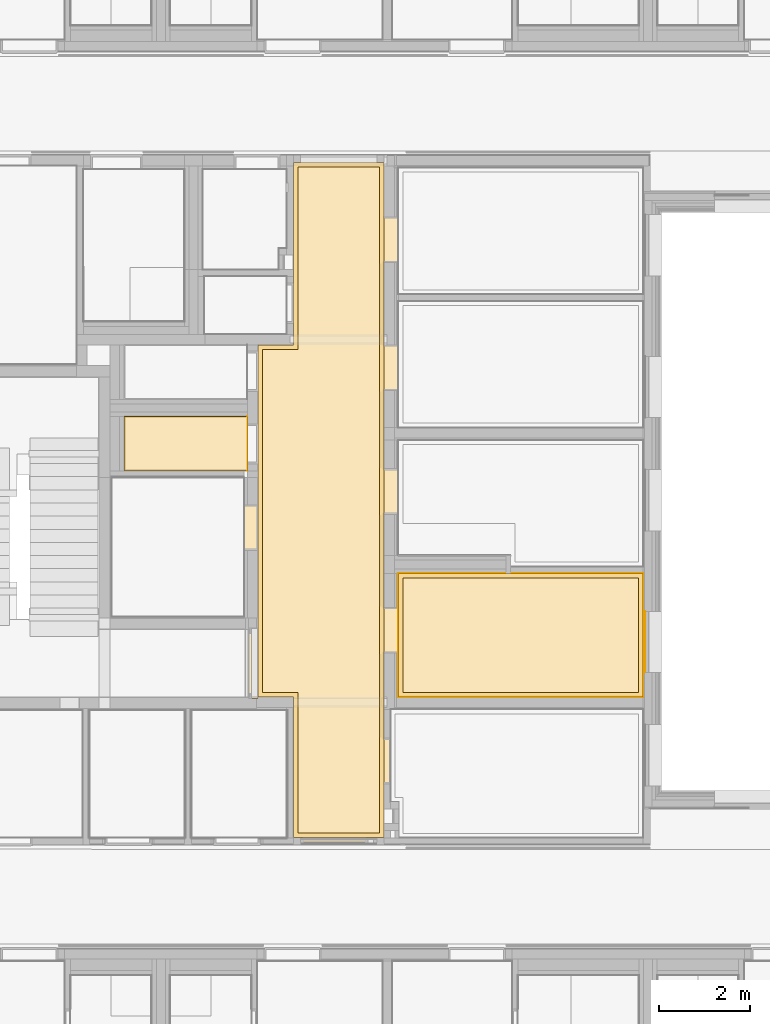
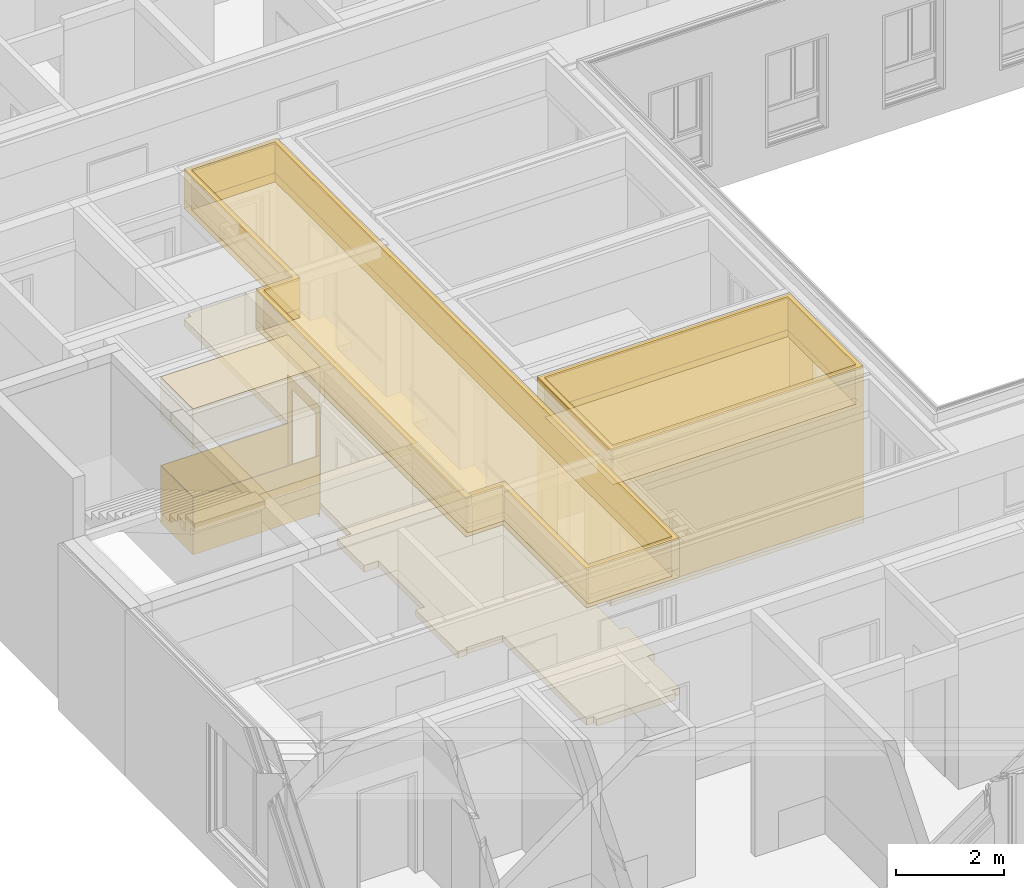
# One storey, part 159 of 222: 24 coverings.
"""IFC4 building model written with IfcOpenShell, lengths in metres."""

from ifc_helpers import new_model, entity, si_unit, converted_unit, derived_unit, frame, frame_2d, origin, origin_with_axes, place, context, subcontext, project, spatial, polyline, rectangle, outline, extrude, material, layer, layer_set, layer_usage, element, save


model = new_model("IFC4")

# Units and contexts
model_context = context("Model", 3, precision=1e-05, world=origin())
body_context = subcontext(model_context, "Body", "Model", "MODEL_VIEW")
ifc_project = project(units=[si_unit("LENGTHUNIT", "METRE"), si_unit("AREAUNIT", "SQUARE_METRE"), si_unit("VOLUMEUNIT", "CUBIC_METRE"), si_unit("MASSUNIT", "GRAM", prefix="KILO"), converted_unit("PLANEANGLEUNIT", "DEGREE", entity("IfcPlaneAngleMeasure", 0.0174532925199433), si_unit("PLANEANGLEUNIT", "RADIAN"), dimensions=[0, 0, 0, 0, 0, 0, 0]), derived_unit("THERMALTRANSMITTANCEUNIT", [(si_unit("POWERUNIT", "WATT"), 1), (si_unit("THERMODYNAMICTEMPERATUREUNIT", "KELVIN"), -1), (si_unit("LENGTHUNIT", "METRE"), -2)]), derived_unit("VOLUMETRICFLOWRATEUNIT", [(si_unit("LENGTHUNIT", "METRE"), 3), (converted_unit("TIMEUNIT", "hour", entity("IfcTimeMeasure", 3600.0), si_unit("TIMEUNIT", "SECOND"), dimensions=[0, 0, 1, 0, 0, 0, 0]), -1), (si_unit("LENGTHUNIT", "METRE"), -1)])], contexts=[model_context])

# Site, building, storey, space
site_placement = place(None, origin())
site = spatial("IfcSite", under=ifc_project, at=site_placement, Name="Psychiatrie Neubau Wunstorf", CompositionType="ELEMENT")
building_placement = place(site_placement, origin())
building = spatial("IfcBuilding", under=site, at=building_placement, Name="Neubau H2 Stationsgebäude", CompositionType="ELEMENT")
storey_placement = place(building_placement, frame((0.0, 0.0, 3.6)))
storey = spatial("IfcBuildingStorey", under=building, at=storey_placement, Name="H2 Ebene +1", CompositionType="ELEMENT", Elevation=3.6)
space_1_placement = place(storey_placement, frame((7.1409987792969, 6.7749998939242, 0.0)))
space_1 = spatial("IfcSpace", under=storey, at=space_1_placement, Name="WUN-H2-E01-073", CompositionType="ELEMENT")

# Coverings
ifc_material_1 = material()
ifc_layer_1 = layer(ifc_material_1, 0.036)
ifc_layer_set_1 = layer_set([ifc_layer_1])
ifc_layer_usage_1 = layer_usage(ifc_layer_set_1, "AXIS3", "POSITIVE", 0.0)
covering_1_placement = place(space_1_placement, frame((0.0999999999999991, 0.104999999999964, 3.55)))
element("IfcCovering", 1, at=covering_1_placement, inside=space_1, material=ifc_layer_usage_1, Name="Gipsfaserplatten 2-lagig (BSK)", PredefinedType="CEILING", context=body_context, shape_type="SweptSolid", body=[
    extrude(outline(polyline([(0.0, 4.02698678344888), (0.783993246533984, 4.02698678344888), (0.784001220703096, 0.0), (2.57650124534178, 0.0), (2.57650124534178, 14.7010001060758), (0.784001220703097, 14.7010001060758), (0.783990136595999, 11.5989969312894), (0.0, 11.5989969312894), (0.0, 4.02698678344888)])), frame((0.0, 14.7010001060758, 0.0), z_axis=(0.0, 0.0, -1.0), x_axis=(1.0, 0.0, 0.0)), (0.0, 0.0, 1.0), 0.036),
])
ifc_material_2 = material(Name="Installationshöhe")
ifc_layer_2 = layer(ifc_material_2, 0.664)
ifc_layer_set_2 = layer_set([ifc_layer_2])
ifc_layer_usage_2 = layer_usage(ifc_layer_set_2, "AXIS3", "POSITIVE", 0.0)
covering_2_placement = place(space_1_placement, frame((0.0999999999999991, 0.104999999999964, 3.514)))
element("IfcCovering", 2, at=covering_2_placement, inside=space_1, material=ifc_layer_usage_2, Name="Gipsfaserplatten 2-lagig (BSK)", PredefinedType="CEILING", context=body_context, shape_type="SweptSolid", body=[
    extrude(outline(polyline([(0.0, 4.02698678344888), (0.783993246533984, 4.02698678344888), (0.784001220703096, 0.0), (2.57650124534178, 0.0), (2.57650124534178, 14.7010001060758), (0.784001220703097, 14.7010001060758), (0.783990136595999, 11.5989969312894), (0.0, 11.5989969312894), (0.0, 4.02698678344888)])), frame((0.0, 14.7010001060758, 0.0), z_axis=(0.0, 0.0, -1.0), x_axis=(1.0, 0.0, 0.0)), (0.0, 0.0, 1.0), 0.664),
])
ifc_material_3 = material(Name="Aa")
ifc_layer_3 = layer(ifc_material_3, 0.2)
ifc_layer_set_3 = layer_set([ifc_layer_3])
ifc_layer_usage_3 = layer_usage(ifc_layer_set_3, "AXIS3", "POSITIVE", 0.0)
covering_3_placement = place(space_1_placement, frame((0.0999999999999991, 0.104999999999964, 2.85)))
element("IfcCovering", 3, at=covering_3_placement, inside=space_1, material=ifc_layer_usage_3, Name="Gipsfaserplatten 2-lagig (BSK)", PredefinedType="CEILING", context=body_context, shape_type="SweptSolid", body=[
    extrude(outline(polyline([(0.0, 4.02698678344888), (0.783993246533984, 4.02698678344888), (0.784001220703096, 0.0), (2.57650124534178, 0.0), (2.57650124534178, 14.7010001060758), (0.784001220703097, 14.7010001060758), (0.783990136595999, 11.5989969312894), (0.0, 11.5989969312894), (0.0, 4.02698678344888)])), frame((0.0, 14.7010001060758, 0.0), z_axis=(0.0, 0.0, -1.0), x_axis=(1.0, 0.0, 0.0)), (0.0, 0.0, 1.0), 0.2),
])
ifc_material_4 = material(Name="D1")
ifc_layer_4 = layer(ifc_material_4, 0.001)
ifc_layer_set_4 = layer_set([ifc_layer_4])
ifc_layer_usage_4 = layer_usage(ifc_layer_set_4, "AXIS3", "POSITIVE", 0.0)
covering_4_placement = place(space_1_placement, frame((0.0999999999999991, 0.104999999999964, 2.65)))
element("IfcCovering", 4, at=covering_4_placement, inside=space_1, material=ifc_layer_usage_4, Name="Gipsfaserplatten 2-lagig (BSK)", PredefinedType="CEILING", context=body_context, shape_type="SweptSolid", body=[
    extrude(outline(polyline([(0.0, 4.02698678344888), (0.783993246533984, 4.02698678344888), (0.784001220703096, 0.0), (2.57650124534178, 0.0), (2.57650124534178, 14.7010001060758), (0.784001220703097, 14.7010001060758), (0.783990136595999, 11.5989969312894), (0.0, 11.5989969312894), (0.0, 4.02698678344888)])), frame((0.0, 14.7010001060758, 0.0), z_axis=(0.0, 0.0, -1.0), x_axis=(1.0, 0.0, 0.0)), (0.0, 0.0, 1.0), 0.001),
])
ifc_material_5 = material(Name="Ku1")
ifc_layer_5 = layer(ifc_material_5, 0.15)
ifc_layer_set_5 = layer_set([ifc_layer_5])
ifc_layer_usage_5 = layer_usage(ifc_layer_set_5, "AXIS3", "POSITIVE", 0.0)
covering_5_placement = place(space_1_placement, frame((-0.307, -0.110000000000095, 0.0)))
element("IfcCovering", 5, at=covering_5_placement, inside=space_1, material=ifc_layer_usage_5, Name="PVC Bahnenware Holzoptik", PredefinedType="FLOORING", context=body_context, shape_type="SweptSolid", body=[
    extrude(rectangle(XDim=0.194999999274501, YDim=1.56, at=frame_2d((0.0974999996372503, 0.78), x_axis=(1.0, 0.0))), frame((0.112000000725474, 3.18000000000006, 0.0), z_axis=(0.0, 0.0, 1.0), x_axis=(1.0, 0.0, 0.0)), (0.0, 0.0, 1.0), 0.15),
    extrude(rectangle(XDim=1.01, YDim=0.3215, at=frame_2d((0.16075, -0.505), x_axis=(0.0, -1.0))), frame((3.08350124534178, 10.989013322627, 0.0), z_axis=(0.0, 0.0, 1.0), x_axis=(1.0, 0.0, 0.0)), (0.0, 0.0, 1.0), 0.15),
    extrude(rectangle(XDim=1.01, YDim=0.3215, at=frame_2d((0.16075, -0.505), x_axis=(0.0, -1.0))), frame((3.08350124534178, 13.8130001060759, 0.0), z_axis=(0.0, 0.0, 1.0), x_axis=(1.0, 0.0, 0.0)), (0.0, 0.0, 1.0), 0.15),
    extrude(rectangle(XDim=1.01, YDim=0.3215, at=frame_2d((0.16075, -0.505), x_axis=(0.0, -1.0))), frame((3.08350124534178, 8.26000000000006, 0.0), z_axis=(0.0, 0.0, 1.0), x_axis=(1.0, 0.0, 0.0)), (0.0, 0.0, 1.0), 0.15),
    extrude(rectangle(XDim=0.115000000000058, YDim=1.6825, at=frame_2d((-0.84125, 0.0575000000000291), x_axis=(0.0, 1.0))), frame((2.92850123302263, 0.0, 0.0), z_axis=(1.35140371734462e-16, -1.97716239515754e-15, 1.0), x_axis=(1.0, 0.0, 0.0)), (0.0, 1.97716239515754e-15, 1.0), 0.15),
    extrude(rectangle(XDim=0.115000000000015, YDim=1.6825, at=frame_2d((0.84125, -0.0575000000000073), x_axis=(0.0, -1.0))), frame((1.2460012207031, 15.1310001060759, 0.0), z_axis=(1.35140371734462e-16, -1.97716239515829e-15, 1.0), x_axis=(1.0, 0.0, 0.0)), (0.0, 1.97716239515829e-15, 1.0), 0.15),
    extrude(rectangle(XDim=0.15, YDim=1.01, at=frame_2d((-0.075, -0.505), x_axis=(-1.0, 0.0))), frame((3.23350124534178, 2.31000000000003, 0.0), z_axis=(0.0, 0.0, 1.0), x_axis=(1.0, 0.0, 0.0)), (0.0, 0.0, 1.0), 0.15),
    extrude(rectangle(XDim=1.01, YDim=0.3215, at=frame_2d((0.16075, -0.505), x_axis=(0.0, -1.0))), frame((3.08350124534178, 5.19600010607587, 0.0), z_axis=(0.0, 0.0, 1.0), x_axis=(1.0, 0.0, 0.0)), (0.0, 0.0, 1.0), 0.15),
    extrude(rectangle(XDim=0.307, YDim=1.01, at=frame_2d((0.1535, 0.505), x_axis=(1.0, 0.0))), frame((0.0, 6.45000000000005, 0.0), z_axis=(0.0, 0.0, 1.0), x_axis=(1.0, 0.0, 0.0)), (0.0, 0.0, 1.0), 0.15),
    extrude(outline(polyline([(0.783993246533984, 10.8740133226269), (0.0, 10.8740133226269), (0.0, 3.10200317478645), (0.784001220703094, 3.10200317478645), (0.784001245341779, 0.0), (2.77650124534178, 0.0), (2.77650124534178, 14.9010001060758), (0.784001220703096, 14.9010001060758), (0.783993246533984, 10.8740133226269)])), frame((0.307, 0.115000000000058, 0.0), z_axis=(0.0, 0.0, 1.0), x_axis=(1.0, 0.0, 0.0)), (0.0, 0.0, 1.0), 0.15),
])
ifc_material_6 = material()
ifc_layer_6 = layer(ifc_material_6, 0.036)
ifc_layer_set_6 = layer_set([ifc_layer_6])
ifc_layer_usage_6 = layer_usage(ifc_layer_set_6, "AXIS3", "POSITIVE", 0.0)
covering_6_placement = place(space_1_placement, frame((0.0, 0.00499999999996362, 3.55)))
element("IfcCovering", 6, at=covering_6_placement, inside=space_1, material=ifc_layer_usage_6, Name="Gipsfaserplatten 2-lagig (BSK)", PredefinedType="CEILING", context=body_context, shape_type="SweptSolid", body=[
    extrude(outline(polyline([(0.0, 4.02698678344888), (0.783993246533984, 4.02698678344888), (0.784001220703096, 0.0), (2.77650124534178, 0.0), (2.77650124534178, 14.9010001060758), (0.784001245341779, 14.9010001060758), (0.784001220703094, 11.7989969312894), (0.0, 11.7989969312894), (0.0, 4.02698678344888)]), holes=[polyline([(0.883993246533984, 4.12698678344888), (0.100000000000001, 4.12698678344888), (0.1, 11.6989969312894), (0.883990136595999, 11.6989969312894), (0.884001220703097, 14.8010001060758), (2.67650124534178, 14.8010001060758), (2.67650124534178, 0.1), (0.884001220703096, 0.1), (0.883993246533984, 4.12698678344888)])]), frame((0.0, 14.9010001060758, 0.0), z_axis=(0.0, 0.0, -1.0), x_axis=(1.0, 0.0, 0.0)), (0.0, 0.0, 1.0), 0.036),
])
ifc_material_7 = material(Name="Installationshöhe")
ifc_layer_7 = layer(ifc_material_7, 0.664)
ifc_layer_set_7 = layer_set([ifc_layer_7])
ifc_layer_usage_7 = layer_usage(ifc_layer_set_7, "AXIS3", "POSITIVE", 0.0)
covering_7_placement = place(space_1_placement, frame((0.0, 0.00499999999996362, 3.514)))
element("IfcCovering", 7, at=covering_7_placement, inside=space_1, material=ifc_layer_usage_7, Name="Gipsfaserplatten 2-lagig (BSK)", PredefinedType="CEILING", context=body_context, shape_type="SweptSolid", body=[
    extrude(outline(polyline([(0.0, 4.02698678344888), (0.783993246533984, 4.02698678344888), (0.784001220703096, 0.0), (2.77650124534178, 0.0), (2.77650124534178, 14.9010001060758), (0.784001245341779, 14.9010001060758), (0.784001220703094, 11.7989969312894), (0.0, 11.7989969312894), (0.0, 4.02698678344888)]), holes=[polyline([(0.883993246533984, 4.12698678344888), (0.100000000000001, 4.12698678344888), (0.1, 11.6989969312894), (0.883990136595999, 11.6989969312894), (0.884001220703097, 14.8010001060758), (2.67650124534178, 14.8010001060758), (2.67650124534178, 0.1), (0.884001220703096, 0.1), (0.883993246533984, 4.12698678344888)])]), frame((0.0, 14.9010001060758, 0.0), z_axis=(0.0, 0.0, -1.0), x_axis=(1.0, 0.0, 0.0)), (0.0, 0.0, 1.0), 0.664),
])
ifc_material_8 = material(Name="A1")
ifc_layer_8 = layer(ifc_material_8, 0.2)
ifc_layer_set_8 = layer_set([ifc_layer_8])
ifc_layer_usage_8 = layer_usage(ifc_layer_set_8, "AXIS3", "POSITIVE", 0.0)
covering_8_placement = place(space_1_placement, frame((0.0, 0.00499999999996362, 2.85)))
element("IfcCovering", 8, at=covering_8_placement, inside=space_1, material=ifc_layer_usage_8, Name="Gipsfaserplatten 2-lagig (BSK)", PredefinedType="CEILING", context=body_context, shape_type="SweptSolid", body=[
    extrude(outline(polyline([(0.0, 4.02698678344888), (0.783993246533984, 4.02698678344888), (0.784001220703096, 0.0), (2.77650124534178, 0.0), (2.77650124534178, 14.9010001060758), (0.784001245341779, 14.9010001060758), (0.784001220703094, 11.7989969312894), (0.0, 11.7989969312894), (0.0, 4.02698678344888)]), holes=[polyline([(0.883993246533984, 4.12698678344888), (0.100000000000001, 4.12698678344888), (0.1, 11.6989969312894), (0.883990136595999, 11.6989969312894), (0.884001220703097, 14.8010001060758), (2.67650124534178, 14.8010001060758), (2.67650124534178, 0.1), (0.884001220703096, 0.1), (0.883993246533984, 4.12698678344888)])]), frame((0.0, 14.9010001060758, 0.0), z_axis=(0.0, 0.0, -1.0), x_axis=(1.0, 0.0, 0.0)), (0.0, 0.0, 1.0), 0.2),
])
ifc_material_9 = material(Name="D1")
ifc_layer_9 = layer(ifc_material_9, 0.001)
ifc_layer_set_9 = layer_set([ifc_layer_9])
ifc_layer_usage_9 = layer_usage(ifc_layer_set_9, "AXIS3", "POSITIVE", 0.0)
covering_9_placement = place(space_1_placement, frame((0.0, 0.00499999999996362, 2.65)))
element("IfcCovering", 9, at=covering_9_placement, inside=space_1, material=ifc_layer_usage_9, Name="Gipsfaserplatten 2-lagig (BSK)", PredefinedType="CEILING", context=body_context, shape_type="SweptSolid", body=[
    extrude(outline(polyline([(0.0, 4.02698678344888), (0.783993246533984, 4.02698678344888), (0.784001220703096, 0.0), (2.77650124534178, 0.0), (2.77650124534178, 14.9010001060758), (0.784001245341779, 14.9010001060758), (0.784001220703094, 11.7989969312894), (0.0, 11.7989969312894), (0.0, 4.02698678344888)]), holes=[polyline([(0.883993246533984, 4.12698678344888), (0.100000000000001, 4.12698678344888), (0.1, 11.6989969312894), (0.883990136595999, 11.6989969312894), (0.884001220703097, 14.8010001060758), (2.67650124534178, 14.8010001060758), (2.67650124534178, 0.1), (0.884001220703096, 0.1), (0.883993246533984, 4.12698678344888)])]), frame((0.0, 14.9010001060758, 0.0), z_axis=(0.0, 0.0, -1.0), x_axis=(1.0, 0.0, 0.0)), (0.0, 0.0, 1.0), 0.001),
])

# Space
space_2_placement = place(storey_placement, frame((10.2390000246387, 9.88249989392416, 0.0)))
space_2 = spatial("IfcSpace", under=storey, at=space_2_placement, Name="WUN-H2-E01-036", CompositionType="ELEMENT")

# Coverings
ifc_material_10 = material()
ifc_layer_10 = layer(ifc_material_10, 0.036)
ifc_layer_set_10 = layer_set([ifc_layer_10])
ifc_layer_usage_10 = layer_usage(ifc_layer_set_10, "AXIS3", "POSITIVE", 0.0)
covering_10_placement = place(space_2_placement, frame((0.0, 0.0, 3.55)))
element("IfcCovering", 10, at=covering_10_placement, inside=space_2, material=ifc_layer_usage_10, Name="Gipsfaserplatten 2-lagig (BSK)", PredefinedType="CEILING", context=body_context, shape_type="SweptSolid", body=[
    extrude(outline(polyline([(5.3999999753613, 2.72850010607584), (0.0, 2.72850010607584), (0.0, 0.0), (5.39999997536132, 0.0), (5.3999999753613, 2.72850010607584)]), holes=[polyline([(0.1, 2.62850010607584), (5.2999999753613, 2.62850010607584), (5.2999999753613, 0.100000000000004), (0.1, 0.1), (0.1, 2.62850010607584)])]), frame((0.0, 2.72850010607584, 0.0), z_axis=(0.0, 0.0, -1.0), x_axis=(1.0, 0.0, 0.0)), (0.0, 0.0, 1.0), 0.036),
])
ifc_material_11 = material(Name="Installationshöhe")
ifc_layer_11 = layer(ifc_material_11, 0.714)
ifc_layer_set_11 = layer_set([ifc_layer_11])
ifc_layer_usage_11 = layer_usage(ifc_layer_set_11, "AXIS3", "POSITIVE", 0.0)
covering_11_placement = place(space_2_placement, frame((0.0, 0.0, 3.514)))
element("IfcCovering", 11, at=covering_11_placement, inside=space_2, material=ifc_layer_usage_11, Name="Gipsfaserplatten 2-lagig (BSK)", PredefinedType="CEILING", context=body_context, shape_type="SweptSolid", body=[
    extrude(outline(polyline([(5.3999999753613, 2.72850010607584), (0.0, 2.72850010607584), (0.0, 0.0), (5.39999997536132, 0.0), (5.3999999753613, 2.72850010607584)]), holes=[polyline([(0.1, 2.62850010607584), (5.2999999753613, 2.62850010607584), (5.2999999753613, 0.100000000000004), (0.1, 0.1), (0.1, 2.62850010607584)])]), frame((0.0, 2.72850010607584, 0.0), z_axis=(0.0, 0.0, -1.0), x_axis=(1.0, 0.0, 0.0)), (0.0, 0.0, 1.0), 0.714),
])
ifc_material_12 = material(Name="A1")
ifc_layer_12 = layer(ifc_material_12, 0.15)
ifc_layer_set_12 = layer_set([ifc_layer_12])
ifc_layer_usage_12 = layer_usage(ifc_layer_set_12, "AXIS3", "POSITIVE", 0.0)
covering_12_placement = place(space_2_placement, frame((0.0, 0.0, 2.8)))
element("IfcCovering", 12, at=covering_12_placement, inside=space_2, material=ifc_layer_usage_12, Name="Gipsfaserplatten 2-lagig (BSK)", PredefinedType="CEILING", context=body_context, shape_type="SweptSolid", body=[
    extrude(outline(polyline([(5.3999999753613, 2.72850010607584), (0.0, 2.72850010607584), (0.0, 0.0), (5.39999997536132, 0.0), (5.3999999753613, 2.72850010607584)]), holes=[polyline([(0.1, 2.62850010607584), (5.2999999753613, 2.62850010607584), (5.2999999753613, 0.100000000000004), (0.1, 0.1), (0.1, 2.62850010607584)])]), frame((0.0, 2.72850010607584, 0.0), z_axis=(0.0, 0.0, -1.0), x_axis=(1.0, 0.0, 0.0)), (0.0, 0.0, 1.0), 0.15),
])
ifc_material_13 = material(Name="D1")
ifc_layer_13 = layer(ifc_material_13, 0.001)
ifc_layer_set_13 = layer_set([ifc_layer_13])
ifc_layer_usage_13 = layer_usage(ifc_layer_set_13, "AXIS3", "POSITIVE", 0.0)
covering_13_placement = place(space_2_placement, frame((0.0, 0.0, 2.65)))
element("IfcCovering", 13, at=covering_13_placement, inside=space_2, material=ifc_layer_usage_13, Name="Gipsfaserplatten 2-lagig (BSK)", PredefinedType="CEILING", context=body_context, shape_type="SweptSolid", body=[
    extrude(outline(polyline([(5.3999999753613, 2.72850010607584), (0.0, 2.72850010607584), (0.0, 0.0), (5.39999997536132, 0.0), (5.3999999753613, 2.72850010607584)]), holes=[polyline([(0.1, 2.62850010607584), (5.2999999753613, 2.62850010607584), (5.2999999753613, 0.100000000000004), (0.1, 0.1), (0.1, 2.62850010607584)])]), frame((0.0, 2.72850010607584, 0.0), z_axis=(0.0, 0.0, -1.0), x_axis=(1.0, 0.0, 0.0)), (0.0, 0.0, 1.0), 0.001),
])
ifc_material_14 = material()
ifc_layer_14 = layer(ifc_material_14, 0.036)
ifc_layer_set_14 = layer_set([ifc_layer_14])
ifc_layer_usage_14 = layer_usage(ifc_layer_set_14, "AXIS3", "POSITIVE", 0.0)
covering_14_placement = place(space_2_placement, frame((0.1, 0.0999999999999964, 3.55)))
element("IfcCovering", 14, at=covering_14_placement, inside=space_2, material=ifc_layer_usage_14, Name="Gipsfaserplatten 2-lagig (BSK)", PredefinedType="CEILING", context=body_context, shape_type="SweptSolid", body=[
    extrude(rectangle(XDim=5.1999999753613, YDim=2.52850010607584, at=frame_2d((2.59999998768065, 1.26425005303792), x_axis=(1.0, 6.99611312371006e-16))), frame((0.0, 2.52850010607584, 0.0), z_axis=(0.0, 0.0, -1.0), x_axis=(1.0, 0.0, 0.0)), (0.0, 0.0, 1.0), 0.036),
])
ifc_material_15 = material(Name="Installationshöhe")
ifc_layer_15 = layer(ifc_material_15, 0.714)
ifc_layer_set_15 = layer_set([ifc_layer_15])
ifc_layer_usage_15 = layer_usage(ifc_layer_set_15, "AXIS3", "POSITIVE", 0.0)
covering_15_placement = place(space_2_placement, frame((0.1, 0.0999999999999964, 3.514)))
element("IfcCovering", 15, at=covering_15_placement, inside=space_2, material=ifc_layer_usage_15, Name="Gipsfaserplatten 2-lagig (BSK)", PredefinedType="CEILING", context=body_context, shape_type="SweptSolid", body=[
    extrude(rectangle(XDim=5.1999999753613, YDim=2.52850010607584, at=frame_2d((2.59999998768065, 1.26425005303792), x_axis=(1.0, 6.99611312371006e-16))), frame((0.0, 2.52850010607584, 0.0), z_axis=(0.0, 0.0, -1.0), x_axis=(1.0, 0.0, 0.0)), (0.0, 0.0, 1.0), 0.714),
])
ifc_material_16 = material(Name="Aa")
ifc_layer_16 = layer(ifc_material_16, 0.15)
ifc_layer_set_16 = layer_set([ifc_layer_16])
ifc_layer_usage_16 = layer_usage(ifc_layer_set_16, "AXIS3", "POSITIVE", 0.0)
covering_16_placement = place(space_2_placement, frame((0.1, 0.0999999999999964, 2.8)))
element("IfcCovering", 16, at=covering_16_placement, inside=space_2, material=ifc_layer_usage_16, Name="Gipsfaserplatten 2-lagig (BSK)", PredefinedType="CEILING", context=body_context, shape_type="SweptSolid", body=[
    extrude(rectangle(XDim=5.1999999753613, YDim=2.52850010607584, at=frame_2d((2.59999998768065, 1.26425005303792), x_axis=(1.0, 6.99611312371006e-16))), frame((0.0, 2.52850010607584, 0.0), z_axis=(0.0, 0.0, -1.0), x_axis=(1.0, 0.0, 0.0)), (0.0, 0.0, 1.0), 0.15),
])
ifc_material_17 = material(Name="D1")
ifc_layer_17 = layer(ifc_material_17, 0.001)
ifc_layer_set_17 = layer_set([ifc_layer_17])
ifc_layer_usage_17 = layer_usage(ifc_layer_set_17, "AXIS3", "POSITIVE", 0.0)
covering_17_placement = place(space_2_placement, frame((0.1, 0.0999999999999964, 2.65)))
element("IfcCovering", 17, at=covering_17_placement, inside=space_2, material=ifc_layer_usage_17, Name="Gipsfaserplatten 2-lagig (BSK)", PredefinedType="CEILING", context=body_context, shape_type="SweptSolid", body=[
    extrude(rectangle(XDim=5.1999999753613, YDim=2.52850010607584, at=frame_2d((2.59999998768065, 1.26425005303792), x_axis=(1.0, 6.99611312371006e-16))), frame((0.0, 2.52850010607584, 0.0), z_axis=(0.0, 0.0, -1.0), x_axis=(1.0, 0.0, 0.0)), (0.0, 0.0, 1.0), 0.001),
])
ifc_material_18 = material(Name="Ku1")
ifc_layer_18 = layer(ifc_material_18, 0.15)
ifc_layer_set_18 = layer_set([ifc_layer_18])
ifc_layer_usage_18 = layer_usage(ifc_layer_set_18, "AXIS3", "POSITIVE", 0.0)
covering_18_placement = place(space_2_placement, origin())
element("IfcCovering", 18, at=covering_18_placement, inside=space_2, material=ifc_layer_usage_18, Name="PVC Bahnenware Holzoptik", PredefinedType="FLOORING", context=body_context, shape_type="SweptSolid", body=[
    extrude(rectangle(XDim=5.39999997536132, YDim=2.72850010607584, at=frame_2d((2.69999998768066, 1.36425005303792), x_axis=(1.0, 0.0))), origin_with_axes(), (0.0, 0.0, 1.0), 0.15),
])
ifc_material_19 = material(Name="49")
ifc_layer_19 = layer(ifc_material_19, 0.001)
ifc_layer_set_19 = layer_set([ifc_layer_19])
ifc_layer_usage_19 = layer_usage(ifc_layer_set_19, "AXIS3", "POSITIVE", 0.0)
covering_19_placement = place(space_2_placement, frame((0.0, 0.0, 0.15)))
element("IfcCovering", 19, at=covering_19_placement, inside=space_2, material=ifc_layer_usage_19, PredefinedType="CLADDING", context=body_context, shape_type="SweptSolid", body=[
    extrude(rectangle(XDim=5.39999997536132, YDim=3.15, at=frame_2d((2.69999998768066, -1.575), x_axis=(1.0, 0.0))), frame((5.39999997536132, 2.72850010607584, 0.0), z_axis=(0.0, -1.0, 0.0), x_axis=(-1.0, 0.0, 0.0)), (0.0, 0.0, 1.0), 0.001),
    extrude(outline(polyline([(0.0, 3.15), (0.750000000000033, 3.15), (0.750000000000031, 0.89), (1.76000000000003, 0.89), (1.76000000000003, 3.15), (2.72850010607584, 3.15), (2.72850010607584, 0.0), (0.0, 0.0), (0.0, 3.15)])), frame((0.0, 2.72850010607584, 3.15), z_axis=(1.0, 0.0, -1.93156516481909e-16), x_axis=(0.0, -1.0, 0.0)), (0.0, 0.0, 1.0), 0.001),
    extrude(rectangle(XDim=5.39999997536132, YDim=3.15, at=frame_2d((2.69999998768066, -1.575), x_axis=(1.0, 0.0))), frame((0.0, 0.0, 0.0), z_axis=(0.0, 1.0, 0.0), x_axis=(1.0, 0.0, 0.0)), (0.0, 0.0, 1.0), 0.001),
    extrude(outline(polyline([(0.0, 3.15), (2.72850010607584, 3.15), (2.72850010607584, 0.0), (0.0, 0.0), (0.0, 3.15)]), holes=[polyline([(1.89250010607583, 2.75), (0.54250010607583, 2.75), (0.54250010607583, 0.635), (1.89250010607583, 0.635), (1.89250010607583, 2.75)])]), frame((5.39999997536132, 0.0, 3.15), z_axis=(-1.0, 0.0, 0.0), x_axis=(0.0, 1.0, 0.0)), (0.0, 0.0, 1.0), 0.001),
    extrude(rectangle(XDim=1.35, YDim=0.0499999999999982, at=frame_2d((-0.0249999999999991, -0.675), x_axis=(0.0, -1.0))), frame((5.44999997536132, 0.54250010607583, 2.515), z_axis=(0.0, 0.0, -1.0), x_axis=(1.0, 0.0, 0.0)), (0.0, 0.0, 1.0), 0.001),
    extrude(rectangle(XDim=2.115, YDim=0.0499999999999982, at=frame_2d((-0.0249999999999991, -1.0575), x_axis=(0.0, -1.0))), frame((5.44999997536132, 0.54250010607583, 0.4), z_axis=(0.0, 1.0, 0.0), x_axis=(1.0, 0.0, 0.0)), (0.0, 0.0, 1.0), 0.001),
    extrude(rectangle(XDim=2.115, YDim=0.0499999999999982, at=frame_2d((-0.0249999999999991, -1.0575), x_axis=(0.0, -1.0))), frame((5.39999997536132, 1.89250010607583, 0.4), z_axis=(0.0, -1.0, 0.0), x_axis=(-1.0, 0.0, 0.0)), (0.0, 0.0, 1.0), 0.001),
])

# Space
space_3_placement = place(storey_placement, frame((4.19, 14.8750132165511, 0.0)))
space_3 = spatial("IfcSpace", under=storey, at=space_3_placement, Name="WUN-H2-E01-030", CompositionType="ELEMENT")

# Coverings
ifc_material_20 = material()
ifc_layer_20 = layer(ifc_material_20, 0.036)
ifc_layer_set_20 = layer_set([ifc_layer_20])
ifc_layer_usage_20 = layer_usage(ifc_layer_set_20, "AXIS3", "POSITIVE", 0.0)
covering_20_placement = place(space_3_placement, frame((0.0, 0.0, 3.55)))
element("IfcCovering", 20, at=covering_20_placement, inside=space_3, material=ifc_layer_usage_20, Name="Gipsfaserplatten 2-lagig (BSK)", PredefinedType="CEILING", context=body_context, shape_type="SweptSolid", body=[
    extrude(rectangle(XDim=1.20200000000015, YDim=2.7189987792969, at=frame_2d((-1.35949938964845, 0.601000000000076), x_axis=(0.0, 1.0))), frame((2.7189987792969, 1.20200000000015, 0.0), z_axis=(0.0, 0.0, -1.0), x_axis=(1.0, 0.0, 0.0)), (0.0, 0.0, 1.0), 0.036),
])
ifc_material_21 = material(Name="Installationshöhe")
ifc_layer_21 = layer(ifc_material_21, 0.764)
ifc_layer_set_21 = layer_set([ifc_layer_21])
ifc_layer_usage_21 = layer_usage(ifc_layer_set_21, "AXIS3", "POSITIVE", 0.0)
covering_21_placement = place(space_3_placement, frame((0.0, 0.0, 3.514)))
element("IfcCovering", 21, at=covering_21_placement, inside=space_3, material=ifc_layer_usage_21, Name="Gipsfaserplatten 2-lagig (BSK)", PredefinedType="CEILING", context=body_context, shape_type="SweptSolid", body=[
    extrude(rectangle(XDim=1.20200000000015, YDim=2.7189987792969, at=frame_2d((-1.35949938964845, 0.601000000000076), x_axis=(0.0, 1.0))), frame((2.7189987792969, 1.20200000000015, 0.0), z_axis=(0.0, 0.0, -1.0), x_axis=(1.0, 0.0, 0.0)), (0.0, 0.0, 1.0), 0.764),
])
ifc_material_22 = material(Name="E3")
ifc_layer_22 = layer(ifc_material_22, 0.1)
ifc_layer_set_22 = layer_set([ifc_layer_22])
ifc_layer_usage_22 = layer_usage(ifc_layer_set_22, "AXIS3", "POSITIVE", 0.0)
covering_22_placement = place(space_3_placement, frame((0.0, 0.0, 2.75)))
element("IfcCovering", 22, at=covering_22_placement, inside=space_3, material=ifc_layer_usage_22, Name="Rasterdecke", PredefinedType="CEILING", context=body_context, shape_type="SweptSolid", body=[
    extrude(rectangle(XDim=1.20200000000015, YDim=2.7189987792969, at=frame_2d((-1.35949938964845, 0.601000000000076), x_axis=(0.0, 1.0))), frame((2.7189987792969, 1.20200000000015, 0.0), z_axis=(0.0, 0.0, -1.0), x_axis=(1.0, 0.0, 0.0)), (0.0, 0.0, 1.0), 0.1),
])
ifc_material_23 = material(Name="50")
ifc_layer_23 = layer(ifc_material_23, 0.001)
ifc_layer_set_23 = layer_set([ifc_layer_23])
ifc_layer_usage_23 = layer_usage(ifc_layer_set_23, "AXIS3", "POSITIVE", 0.0)
covering_23_placement = place(space_3_placement, frame((2.71899877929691, 0.0, 0.15)))
element("IfcCovering", 23, at=covering_23_placement, inside=space_3, material=ifc_layer_usage_23, PredefinedType="CLADDING", context=body_context, shape_type="SweptSolid", body=[
    extrude(outline(polyline([(1.20200000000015, 2.5), (1.20200000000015, 0.0), (0.0, 0.0), (0.0, 2.5), (0.15, 2.5), (0.15, 0.24), (1.035, 0.24), (1.035, 2.5), (1.20200000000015, 2.5)])), frame((0.0, 0.0, 2.5), z_axis=(-1.0, 0.0, -2.03672316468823e-16), x_axis=(0.0, 1.0, 0.0)), (0.0, 0.0, 1.0), 0.001),
])
ifc_material_24 = material(Name="65")
ifc_layer_24 = layer(ifc_material_24, 0.01)
ifc_layer_set_24 = layer_set([ifc_layer_24])
ifc_layer_usage_24 = layer_usage(ifc_layer_set_24, "AXIS3", "POSITIVE", 0.0)
covering_24_placement = place(space_3_placement, frame((0.0, 0.0, 0.25)))
element("IfcCovering", 24, at=covering_24_placement, inside=space_3, material=ifc_layer_usage_24, Name="a-sh Wandbelag", PredefinedType="CLADDING", context=body_context, shape_type="SweptSolid", body=[
    extrude(rectangle(XDim=2.7189987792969, YDim=1.3, at=frame_2d((1.35949938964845, -0.65), x_axis=(1.0, 0.0))), frame((2.7189987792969, 1.20200000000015, 0.0), z_axis=(0.0, -1.0, 0.0), x_axis=(-1.0, 0.0, 0.0)), (0.0, 0.0, 1.0), 0.01),
    extrude(rectangle(XDim=2.7189987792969, YDim=1.3, at=frame_2d((1.35949938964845, -0.65), x_axis=(1.0, 0.0))), frame((0.0, 0.0, 0.0), z_axis=(0.0, 1.0, 0.0), x_axis=(1.0, 0.0, 0.0)), (0.0, 0.0, 1.0), 0.01),
    extrude(rectangle(XDim=1.20200000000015, YDim=1.3, at=frame_2d((0.601000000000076, -0.65), x_axis=(1.0, 0.0))), frame((0.0, 1.20200000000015, 0.0), z_axis=(1.0, 0.0, 0.0), x_axis=(0.0, -1.0, 0.0)), (0.0, 0.0, 1.0), 0.01),
])

save(model, "model.ifc")
